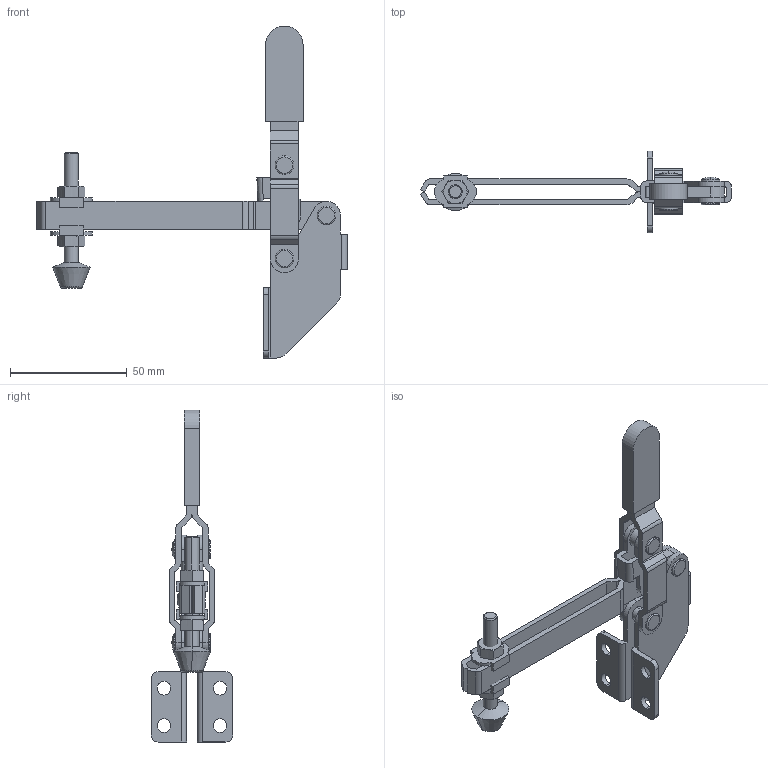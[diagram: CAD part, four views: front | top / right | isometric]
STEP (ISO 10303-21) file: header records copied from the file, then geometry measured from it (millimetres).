
FILE_DESCRIPTION(('CATIA V5 STEP Exchange'),'2;1');
FILE_NAME('D:\Model\toggle\toggle_standard\KJF_010_12A.stp','2005-06-24T04:50:02+00:00',('none'),('none'),'CATIA Version 5 Release 11 (IN-9)','CATIA V5 STEP AP203',' none');
FILE_SCHEMA(('CONFIG_CONTROL_DESIGN'));
Length unit declared in the file: millimetre
Products named in the file (1): Part1
Bounding box: 133 x 35 x 142 mm (x, y, z)
Volume: 30726.5 mm3; surface area: 27992.9 mm2
Topology: 13 solids, 13 shells, 354 faces, 929 edges, 604 vertices
Faces by surface type: plane 159, cylinder 141, cone 36, torus 10, sphere 8
Entity records: 10490 total; most frequent: CARTESIAN_POINT 2243, ORIENTED_EDGE 1842, DIRECTION 1359, EDGE_CURVE 921, AXIS2_PLACEMENT_3D 604, VERTEX_POINT 604, VECTOR 507, LINE 507
